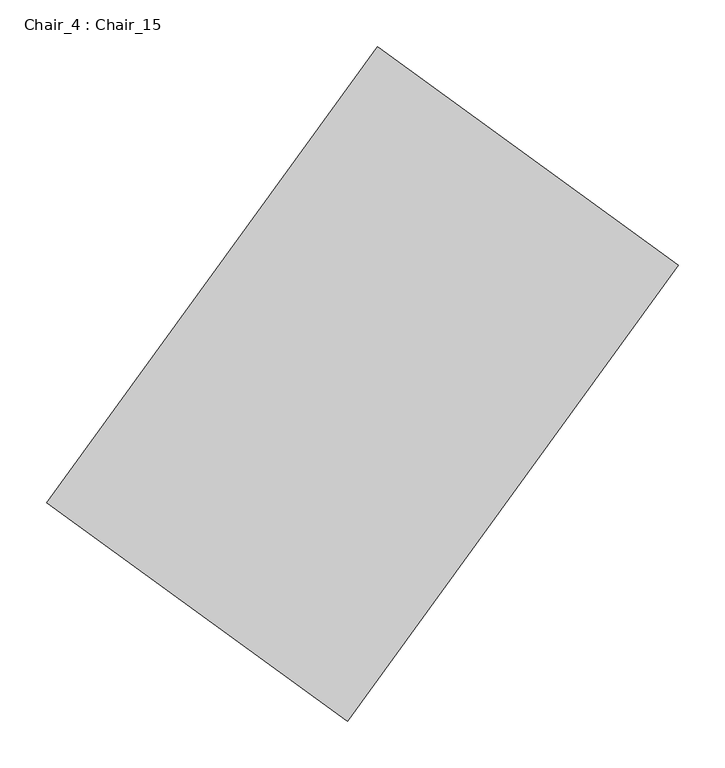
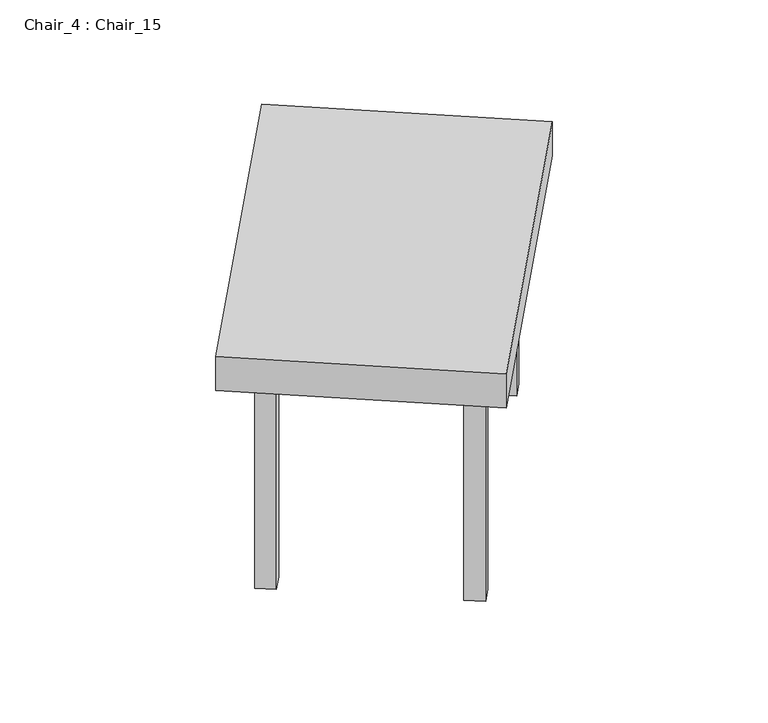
"""IFC4 building model written with IfcOpenShell, lengths in millimetres: furniture geometry, Chair_4 : Chair_15."""

from ifc_helpers import new_model, si_unit, frame, origin, place, context, project, spatial, polyline, outline, extrude, source, transform, mapped, element, save


def chair_4_chair_15_302be4ad(model_context):
    return source(origin(), model_context, "Body", "SweptSolid", [
        extrude(outline(polyline([(-4112.7900261, 14878.6105238), (-4130.4235837, 14854.340014), (-4154.6940935, 14871.9735716), (-4137.060536, 14896.2440814), (-4112.7900261, 14878.6105238)])), frame((0.0, 0.0, 3400.0), z_axis=(0.0, 0.0, 1.0), x_axis=(1.0, 0.0, 0.0)), (0.0, 0.0, 1.0), 352.5338763),
        extrude(outline(polyline([(-3874.8601142, 14718.5069338), (-3892.4936718, 14694.236424), (-3916.7641816, 14711.8699816), (-3899.1306241, 14736.1404914), (-3874.8601142, 14718.5069338)])), frame((0.0, 0.0, 3400.0), z_axis=(0.0, 0.0, 1.0), x_axis=(1.0, 0.0, 0.0)), (0.0, 0.0, 1.0), 352.5338763),
        extrude(outline(polyline([(-4157.1796317, 14314.1716499), (-4174.8131893, 14289.90114), (-4199.0836991, 14307.5346976), (-4181.4501416, 14331.8052074), (-4157.1796317, 14314.1716499)])), frame((0.0, 0.0, 3400.0), z_axis=(0.0, 0.0, 1.0), x_axis=(1.0, 0.0, 0.0)), (0.0, 0.0, 1.0), 352.5338763),
        extrude(outline(polyline([(-4391.0650699, 14482.2629306), (-4408.6986275, 14457.9924208), (-4432.9691373, 14475.6259783), (-4415.3355798, 14499.8964882), (-4391.0650699, 14482.2629306)])), frame((0.0, 0.0, 3400.0), z_axis=(0.0, 0.0, 1.0), x_axis=(1.0, 0.0, 0.0)), (0.0, 0.0, 1.0), 352.5338763),
        extrude(outline(polyline([(-3814.729386, 14730.783334), (-4171.0803012, 14240.3083771), (-4494.6870989, 14475.422478), (-4138.3361838, 14965.897435), (-3814.729386, 14730.783334)])), frame((0.0, 0.0, 3752.5338763), z_axis=(0.0, 0.0, 1.0), x_axis=(1.0, 0.0, 0.0)), (0.0, 0.0, 1.0), 56.6103545),
    ])


if __name__ == "__main__":
    model = new_model("IFC4")
    model_context = context("Model", 3, world=origin())
    ifc_project = project(units=[si_unit("LENGTHUNIT", "METRE", prefix="MILLI")], contexts=[model_context])
    site = spatial("IfcSite", under=ifc_project)
    building = spatial("IfcBuilding", under=site)
    placement = place(None, origin())
    chair_4_chair_15_shape = chair_4_chair_15_302be4ad(model_context)
    element("IfcFurniture", 1, ObjectType="Chair_4 : Chair_15", at=placement, inside=building, context=model_context, shape_type="MappedRepresentation", body=[
        mapped(chair_4_chair_15_shape, transform((0.0, 0.0, 0.0), x_axis=(1.0, 0.0, 0.0), y_axis=(0.0, 1.0, 0.0), z_axis=(0.0, 0.0, 1.0))),
    ])
    save(model, "model.ifc")
